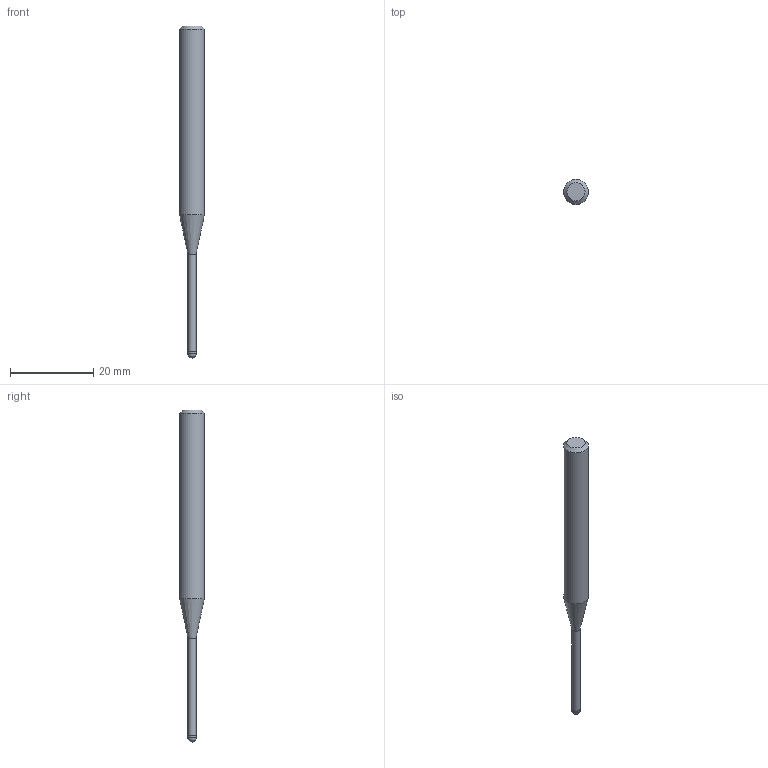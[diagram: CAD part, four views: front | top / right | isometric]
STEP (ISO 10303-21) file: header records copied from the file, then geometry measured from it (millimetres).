
FILE_DESCRIPTION((''),'2;1');
FILE_NAME('C:\Users\nsx150\AppData\Local\Temp\Mastercam 2021\3SYKECWX22\TEMP.step','2021-04-22T10:04:24',(''),(''),'STEP Write','Mastercam 2021 ... CNC Software, Inc.','');
FILE_SCHEMA(('AUTOMOTIVE_DESIGN'));
Length unit declared in the file: millimetre
Products named in the file (1): None
Bounding box: 6 x 6 x 80 mm (x, y, z)
Volume: 1481.2 mm3; surface area: 1155.8 mm2
Topology: 2 solids, 2 shells, 9 faces, 14 edges, 8 vertices
Faces by surface type: plane 3, cylinder 3, cone 2, sphere 1
Full cylindrical faces by diameter (mm): 1.94 x1, 2 x1, 6 x1
Entity records: 211 total; most frequent: DIRECTION 36, CARTESIAN_POINT 25, AXIS2_PLACEMENT_3D 18, ORIENTED_EDGE 14, EDGE_LOOP 14, STYLED_ITEM 12, ADVANCED_FACE 9, FACE_BOUND 8
